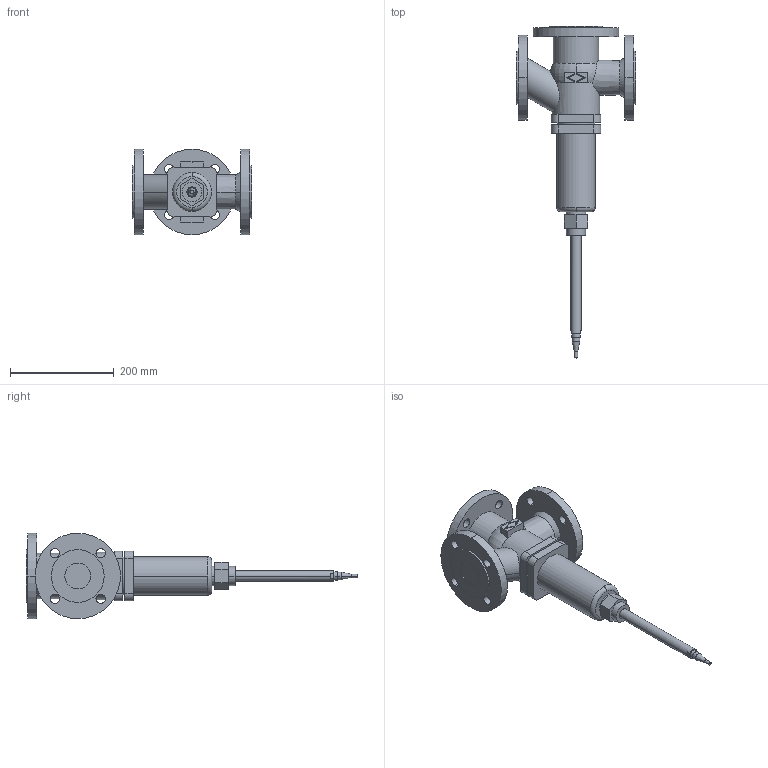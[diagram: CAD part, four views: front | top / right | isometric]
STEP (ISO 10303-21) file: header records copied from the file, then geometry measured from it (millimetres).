
FILE_DESCRIPTION( ( '' ), '1' );
FILE_NAME( 'F:/DE-SHS/TB/OR/04-Sonstiges/daten/files_3d/773-Mischventil/773-Mischventil_PN25/c000006173.stp', '2016-04-11T09:10:09', ( '' ), ( '' ), ' ', ' ', ' ' );
FILE_SCHEMA( ( 'CONFIG_CONTROL_DESIGN' ) );
Length unit declared in the file: millimetre
Products named in the file (1): 1
Bounding box: 230 x 641.44 x 165 mm (x, y, z)
Volume: 3639458.6 mm3; surface area: 301990.9 mm2
Topology: 1 solids, 1 shells, 141 faces, 351 edges, 232 vertices
Faces by surface type: cylinder 70, plane 60, cone 6, torus 5
Entity records: 4806 total; most frequent: CARTESIAN_POINT 1203, DIRECTION 788, ORIENTED_EDGE 702, EDGE_CURVE 351, AXIS2_PLACEMENT_3D 309, VERTEX_POINT 232, EDGE_LOOP 185, LINE 170
